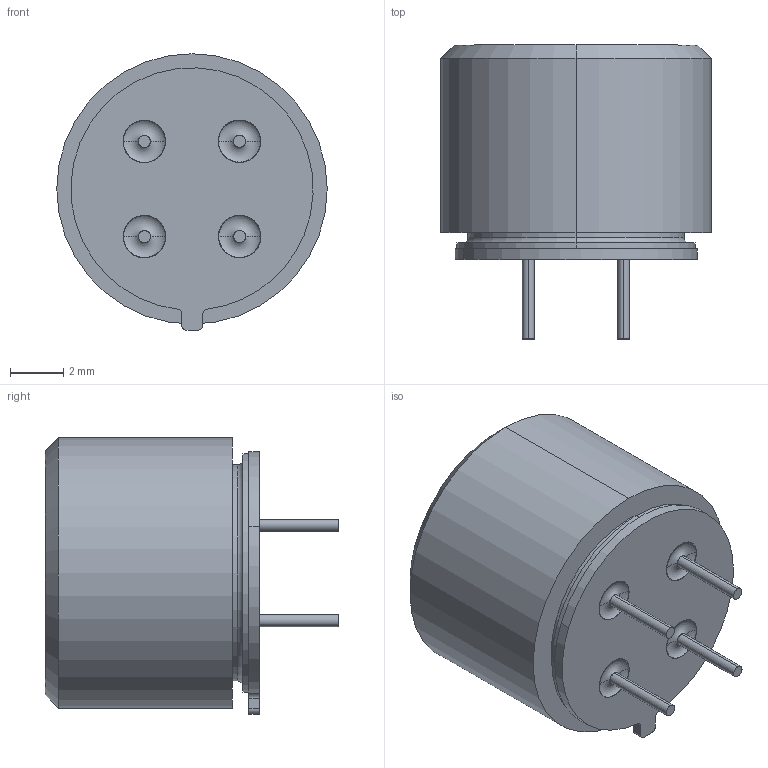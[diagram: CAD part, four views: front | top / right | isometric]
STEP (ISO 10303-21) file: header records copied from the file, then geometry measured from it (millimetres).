
FILE_DESCRIPTION((''),'2;1');
FILE_NAME('MLX90614XCC_-_ALTIUM_1__ASM','2019-02-08T',('jre'),(''),'PRO/ENGINEER BY PARAMETRIC TECHNOLOGY CORPORATION, 2010280','PRO/ENGINEER BY PARAMETRIC TECHNOLOGY CORPORATION, 2010280','');
FILE_SCHEMA(('CONFIG_CONTROL_DESIGN'));
Length unit declared in the file: millimetre
Products named in the file (10): PRT0005; PRT0006; PRT0007; PRT0008; PRT0009; PRT0010; MLX90614X_HEADER_ASSY-ALTIUM_AN_ASM; MLX90614XCC_-_ALTIUM_ANY_ASM; _MLX90614XCC_-_ALTIUM__1_; MLX90614XCC_-_ALTIUM_1__ASM
Assembly tree (15 placements, depth 4):
  MLX90614XCC_-_ALTIUM_1__ASM
    MLX90614XCC_-_ALTIUM_ANY_ASM
      PRT0005
      MLX90614X_HEADER_ASSY-ALTIUM_AN_ASM
        PRT0006
        PRT0007  x4
        PRT0008  x4
        PRT0009
        PRT0010
    _MLX90614XCC_-_ALTIUM__1_
Bounding box: 10.2 x 11.09 x 10.43 mm (x, y, z)
Volume: 485.9 mm3; surface area: 1057 mm2
Topology: 12 solids, 12 shells, 160 faces, 329 edges, 212 vertices
Faces by surface type: cylinder 66, plane 50, torus 36, cone 8
Entity records: 3214 total; most frequent: DIRECTION 653, CARTESIAN_POINT 502, ORIENTED_EDGE 442, AXIS2_PLACEMENT_3D 291, EDGE_CURVE 221, CIRCLE 150, VERTEX_POINT 140, EDGE_LOOP 127
